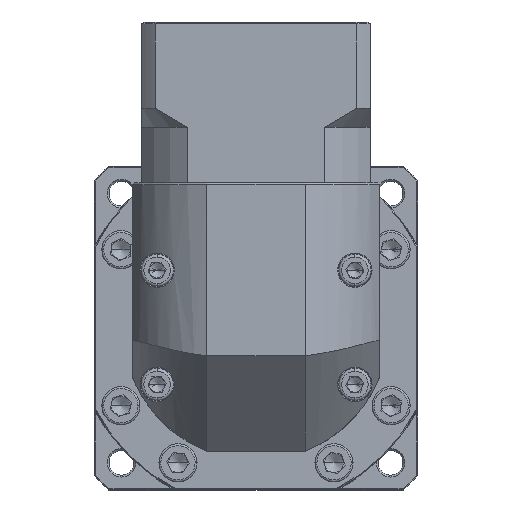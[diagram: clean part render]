
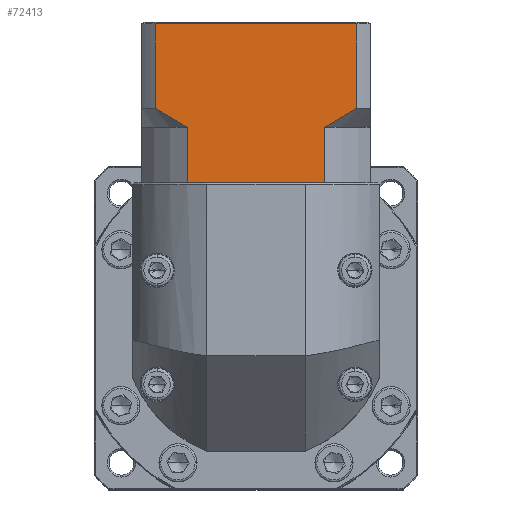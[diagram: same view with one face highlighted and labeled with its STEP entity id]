
A CAD part, top view. The second image highlights one B-rep face of the part: STEP entity #72413.
In plain terms, the highlighted planar face has unit normal (0, 0, 1).
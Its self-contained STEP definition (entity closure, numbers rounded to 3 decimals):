
#757 = CARTESIAN_POINT ( 'NONE',  ( -54.941, 74.458, 41.119 ) ) ;
#1106 = ORIENTED_EDGE ( 'NONE', *, *, #20319, .T. ) ;
#1221 = CARTESIAN_POINT ( 'NONE',  ( -46.512, 79.458, 41.119 ) ) ;
#2820 = ORIENTED_EDGE ( 'NONE', *, *, #94544, .T. ) ;
#4791 = CARTESIAN_POINT ( 'NONE',  ( -102.969, 59.958, 41.119 ) ) ;
#6870 = CARTESIAN_POINT ( 'NONE',  ( -90.997, 74.458, 41.119 ) ) ;
#9479 = CARTESIAN_POINT ( 'NONE',  ( -53.485, 75.208, 41.119 ) ) ;
#10155 = EDGE_CURVE ( 'NONE', #110271, #78561, #115005, .T. ) ;
#12711 = CARTESIAN_POINT ( 'NONE',  ( -46.512, 101.658, 41.119 ) ) ;
#14523 = ORIENTED_EDGE ( 'NONE', *, *, #116126, .T. ) ;
#14525 = DIRECTION ( 'NONE',  ( 0., -1., 0. ) ) ;
#14901 = DIRECTION ( 'NONE',  ( 0., -1., 0. ) ) ;
#16522 = DIRECTION ( 'NONE',  ( 1., 0., 0. ) ) ;
#16666 = CARTESIAN_POINT ( 'NONE',  ( -98.067, 78.559, 41.119 ) ) ;
#17106 = LINE ( 'NONE', #67418, #20407 ) ;
#20319 = EDGE_CURVE ( 'NONE', #78561, #108194, #132209, .T. ) ;
#20407 = VECTOR ( 'NONE', #14525, 1000. ) ;
#21027 = LINE ( 'NONE', #91655, #42627 ) ;
#21918 = DIRECTION ( 'NONE',  ( 1., 0., 0. ) ) ;
#22916 = LINE ( 'NONE', #103471, #120770 ) ;
#23190 = EDGE_CURVE ( 'NONE', #93814, #105183, #137281, .T. ) ;
#26555 = DIRECTION ( 'NONE',  ( 0., 1., 0. ) ) ;
#27146 = CARTESIAN_POINT ( 'NONE',  ( -102.969, 59.958, 41.119 ) ) ;
#29254 = EDGE_CURVE ( 'NONE', #93814, #95139, #21027, .T. ) ;
#35996 = CARTESIAN_POINT ( 'NONE',  ( -90.997, 74.458, 41.119 ) ) ;
#36817 = DIRECTION ( 'NONE',  ( 1., 0., 0. ) ) ;
#41989 = CARTESIAN_POINT ( 'NONE',  ( -54.941, 74.458, 41.119 ) ) ;
#42191 = DIRECTION ( 'NONE',  ( 0., 1., 0. ) ) ;
#42627 = VECTOR ( 'NONE', #92133, 1000. ) ;
#46067 = AXIS2_PLACEMENT_3D ( 'NONE', #126938, #136624, #42191 ) ;
#46799 = VECTOR ( 'NONE', #14901, 1000. ) ;
#47089 = VERTEX_POINT ( 'NONE', #757 ) ;
#49537 = VECTOR ( 'NONE', #26555, 1000. ) ;
#51793 = VERTEX_POINT ( 'NONE', #12711 ) ;
#51938 = ORIENTED_EDGE ( 'NONE', *, *, #96092, .F. ) ;
#52058 = VERTEX_POINT ( 'NONE', #132010 ) ;
#54304 = CARTESIAN_POINT ( 'NONE',  ( -90.006, 59.958, 41.119 ) ) ;
#58148 = CARTESIAN_POINT ( 'NONE',  ( -90.997, 59.958, 41.119 ) ) ;
#58847 = CARTESIAN_POINT ( 'NONE',  ( -99.427, 79.458, 41.119 ) ) ;
#58871 = CARTESIAN_POINT ( 'NONE',  ( -99.427, 79.458, 41.119 ) ) ;
#59741 = CARTESIAN_POINT ( 'NONE',  ( -93.88, 76.01, 41.119 ) ) ;
#61926 = CARTESIAN_POINT ( 'NONE',  ( -46.512, 79.458, 41.119 ) ) ;
#63812 = ORIENTED_EDGE ( 'NONE', *, *, #101370, .F. ) ;
#65344 = VECTOR ( 'NONE', #21918, 1000. ) ;
#67140 = EDGE_LOOP ( 'NONE', ( #63812, #71392, #119964, #127842, #99120, #130055, #1106, #2820, #51938, #14523 ) ) ;
#67418 = CARTESIAN_POINT ( 'NONE',  ( -54.941, 74.458, 41.119 ) ) ;
#68395 = LINE ( 'NONE', #78851, #46799 ) ;
#69403 = LINE ( 'NONE', #133501, #49537 ) ;
#70929 = CARTESIAN_POINT ( 'NONE',  ( -96.688, 77.685, 41.119 ) ) ;
#71392 = ORIENTED_EDGE ( 'NONE', *, *, #91178, .T. ) ;
#72413 = ADVANCED_FACE ( 'NONE', ( #119624 ), #115790, .F. ) ;
#74767 = CARTESIAN_POINT ( 'NONE',  ( -102.969, 59.958, 41.119 ) ) ;
#78561 = VERTEX_POINT ( 'NONE', #54304 ) ;
#78851 = CARTESIAN_POINT ( 'NONE',  ( -46.512, 74.458, 41.119 ) ) ;
#82568 = CARTESIAN_POINT ( 'NONE',  ( -99.427, 101.658, 41.119 ) ) ;
#82638 = LINE ( 'NONE', #27146, #129040 ) ;
#82762 = CARTESIAN_POINT ( 'NONE',  ( -49.254, 77.683, 41.119 ) ) ;
#91165 = EDGE_CURVE ( 'NONE', #110271, #105183, #69403, .T. ) ;
#91178 = EDGE_CURVE ( 'NONE', #51793, #95139, #22916, .T. ) ;
#91655 = CARTESIAN_POINT ( 'NONE',  ( -99.427, 74.458, 41.119 ) ) ;
#92133 = DIRECTION ( 'NONE',  ( 0., 1., 0. ) ) ;
#93814 = VERTEX_POINT ( 'NONE', #58871 ) ;
#94544 = EDGE_CURVE ( 'NONE', #108194, #52058, #82638, .T. ) ;
#95139 = VERTEX_POINT ( 'NONE', #82568 ) ;
#96092 = EDGE_CURVE ( 'NONE', #47089, #52058, #17106, .T. ) ;
#99120 = ORIENTED_EDGE ( 'NONE', *, *, #91165, .F. ) ;
#99230 = VECTOR ( 'NONE', #36817, 1000. ) ;
#101370 = EDGE_CURVE ( 'NONE', #51793, #112892, #68395, .T. ) ;
#103471 = CARTESIAN_POINT ( 'NONE',  ( -102.969, 101.658, 41.119 ) ) ;
#105183 = VERTEX_POINT ( 'NONE', #35996 ) ;
#108194 = VERTEX_POINT ( 'NONE', #134913 ) ;
#110271 = VERTEX_POINT ( 'NONE', #58148 ) ;
#112892 = VERTEX_POINT ( 'NONE', #1221 ) ;
#114694 = CARTESIAN_POINT ( 'NONE',  ( -52.059, 76.009, 41.119 ) ) ;
#115005 = LINE ( 'NONE', #74767, #65344 ) ;
#115790 = PLANE ( 'NONE',  #46067 ) ;
#116126 = EDGE_CURVE ( 'NONE', #47089, #112892, #133416, .T. ) ;
#119624 = FACE_OUTER_BOUND ( 'NONE', #67140, .T. ) ;
#119964 = ORIENTED_EDGE ( 'NONE', *, *, #29254, .F. ) ;
#120770 = VECTOR ( 'NONE', #134895, 1000. ) ;
#126938 = CARTESIAN_POINT ( 'NONE',  ( -102.969, 102.158, 41.119 ) ) ;
#127842 = ORIENTED_EDGE ( 'NONE', *, *, #23190, .T. ) ;
#129040 = VECTOR ( 'NONE', #16522, 1000. ) ;
#130055 = ORIENTED_EDGE ( 'NONE', *, *, #10155, .T. ) ;
#132010 = CARTESIAN_POINT ( 'NONE',  ( -54.941, 59.958, 41.119 ) ) ;
#132209 = LINE ( 'NONE', #4791, #99230 ) ;
#133416 = B_SPLINE_CURVE_WITH_KNOTS ( 'NONE', 3,
 ( #41989, #9479, #114694, #82762, #135548, #61926 ),
 .UNSPECIFIED., .F., .F.,
 ( 4, 2, 4 ),
 ( 0.1, 0.104, 0.109 ),
 .UNSPECIFIED. ) ;
#133501 = CARTESIAN_POINT ( 'NONE',  ( -90.997, 74.458, 41.119 ) ) ;
#134717 = CARTESIAN_POINT ( 'NONE',  ( -92.449, 75.206, 41.119 ) ) ;
#134895 = DIRECTION ( 'NONE',  ( -1., 0., 0. ) ) ;
#134913 = CARTESIAN_POINT ( 'NONE',  ( -55.932, 59.958, 41.119 ) ) ;
#135548 = CARTESIAN_POINT ( 'NONE',  ( -47.874, 78.557, 41.119 ) ) ;
#136624 = DIRECTION ( 'NONE',  ( 0., 0., -1. ) ) ;
#137281 = B_SPLINE_CURVE_WITH_KNOTS ( 'NONE', 3,
 ( #58847, #16666, #70929, #59741, #134717, #6870 ),
 .UNSPECIFIED., .F., .F.,
 ( 4, 2, 4 ),
 ( 0.052, 0.057, 0.062 ),
 .UNSPECIFIED. ) ;
